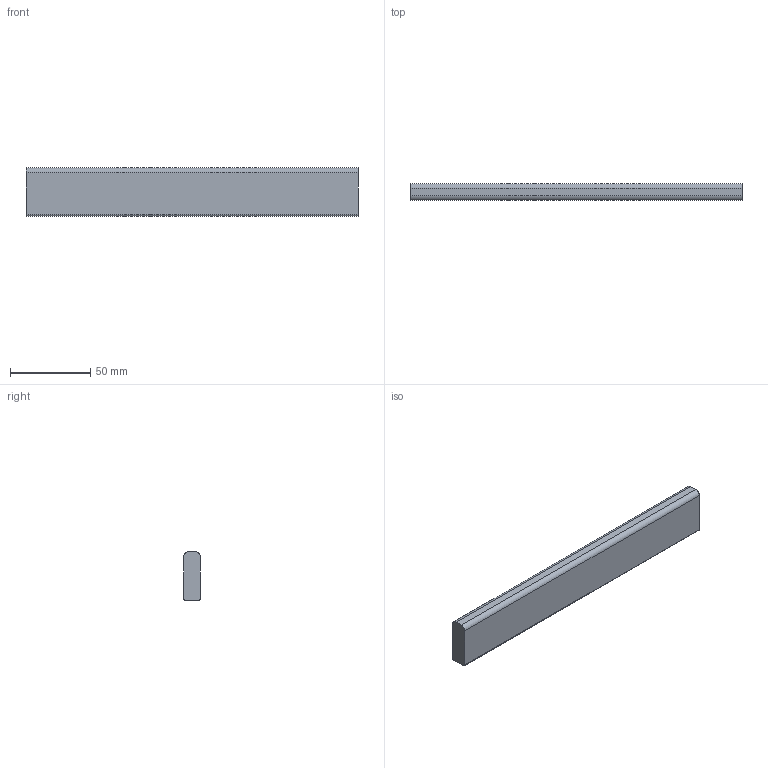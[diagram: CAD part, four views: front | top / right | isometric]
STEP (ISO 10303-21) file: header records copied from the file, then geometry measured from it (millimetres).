
FILE_DESCRIPTION (( 'STEP AP214' ), '1' );
FILE_NAME ('_Querreling_KAB-300_KS-19.step', '2010-08-26T14:58:33', ( 'grass' ), ( '' ), 'SwSTEP 2.0', 'SolidWorks 2009', '' );
FILE_SCHEMA (( 'AUTOMOTIVE_DESIGN' ));
Length unit declared in the file: millimetre
Products named in the file (1): _Querreling_KAB-300_KS-19
Bounding box: 206.5 x 10.5 x 30 mm (x, y, z)
Volume: 64161.2 mm3; surface area: 16638.9 mm2
Topology: 1 solids, 1 shells, 10 faces, 24 edges, 16 vertices
Faces by surface type: plane 6, cylinder 4
Entity records: 330 total; most frequent: DIRECTION 54, CARTESIAN_POINT 51, ORIENTED_EDGE 48, EDGE_CURVE 24, AXIS2_PLACEMENT_3D 19, LINE 16, VECTOR 16, VERTEX_POINT 16
